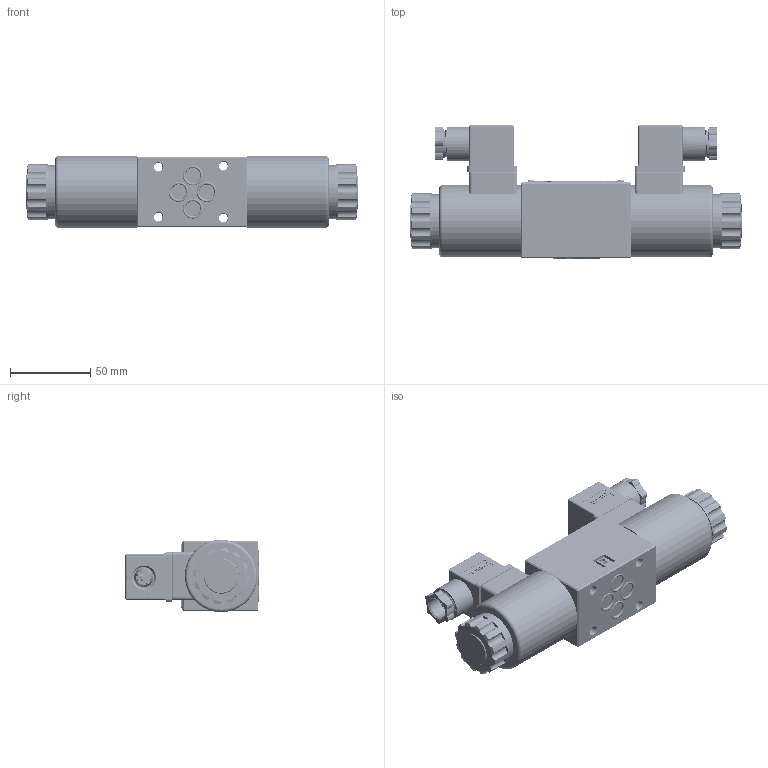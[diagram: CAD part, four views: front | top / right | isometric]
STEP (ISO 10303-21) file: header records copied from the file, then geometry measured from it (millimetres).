
FILE_DESCRIPTION(/* description */ (''),/* implementation_level */ '2;1');
FILE_NAME(/* name */ '4WE6-6XJ直流电磁阀（三位阀）.prt.stp',/* time_stamp */ '2022-03-30T19:32:26+08:00',/* author */ (''),/* organization */ (''),/* preprocessor_version */ 'ST-DEVELOPER v16.7',/* originating_system */ 'SIEMENS PLM Software NX 12.0',/* authorisation */ '');
FILE_SCHEMA (('AUTOMOTIVE_DESIGN { 1 0 10303 214 3 1 1 1 }'));
Products named in the file (1): 4WE6-6XJ直流电磁阀（三位阀）
Bounding box: 206.4 x 82.88 x 45 mm (x, y, z)
Volume: 361858.6 mm3; surface area: 126160.3 mm2
Topology: 89 solids, 99 shells, 4090 faces, 11120 edges, 7380 vertices
Faces by surface type: plane 3178, cylinder 518, cone 138, extrusion 109, bspline 90, torus 43, sphere 14
Full cylindrical faces by diameter (mm): 0.5 x4, 1.65 x6, 1.8 x4, 2 x18, 2.125 x6, 2.2 x2, 2.5 x8, 2.8 x6, 3 x6, 4 x2, 4.2 x2, 4.4 x2, 4.5 x6, 5 x2, 5.3 x4, 5.32 x2, 5.5 x4, 6 x4, 6.2 x2, 7.2 x2, 8 x2, 8.7 x2, 9 x2, 9.4 x4, 11 x2, 12 x4, 12.2 x2, 13 x2, 14.5 x2, 15 x2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
Entity records: 191710 total; most frequent: CARTESIAN_POINT 90419, ORIENTED_EDGE 21084, DIRECTION 18637, EDGE_CURVE 10542, VECTOR 8669, LINE 8560, VERTEX_POINT 7085, AXIS2_PLACEMENT_3D 4984
